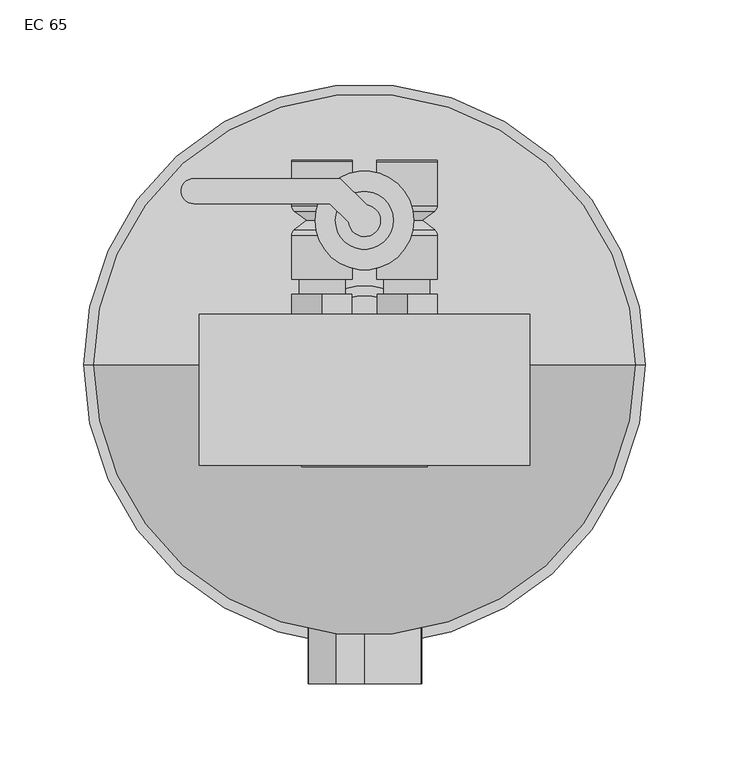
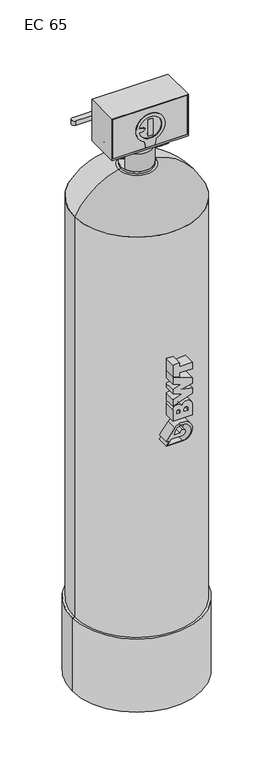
"""IFC4 building model written with IfcOpenShell, lengths in millimetres: flow terminal geometry, BWT_EC : EC 65."""

from ifc_helpers import new_model, si_unit, point, frame, frame_2d, origin, place, context, project, spatial, polyline, circle_curve, ellipse_curve, trimmed, segment, composite_curve, outline, extrude, faceted_brep, source, transform, mapped, element, save
from ifc_brep_helpers import plane_surface, cylinder_surface, revolved_surface, advanced_brep


def ec_65_0eb26893(model_context):
    return source(origin(), model_context, "Body", "SolidModel", [
        advanced_brep(
        [(-25.4198693, 51.0, 1418.3500273), (-43.4198693, 51.0, 1418.3500273), (-7.4198693, 51.0, 1418.3500273), (-7.4198693, 94.749277, 1418.3500273), (-43.4198693, 94.749277, 1418.3500273), (-43.4198693, 121.0, 1418.3500273), (-7.4198693, 121.0, 1418.3500273), (-9.0198693, 91.549277, 1418.3500273), (-41.8198693, 91.549277, 1418.3500273), (-16.4189054, 86.0, 1418.3500273), (-34.4208333, 86.0, 1418.3500273), (-9.0198693, 80.450723, 1418.3500273), (-41.8198693, 80.450723, 1418.3500273), (-7.4198693, 77.250723, 1418.3500273), (-43.4198693, 77.250723, 1418.3500273), (-43.4198693, 122.0, 1418.3500273), (-7.4198693, 122.0, 1418.3500273)],
        [
            (0, 1),
            (1, 2, circle_curve(frame((-25.4198693, 51.0, 1418.3500273), z_axis=(0.0, -1.0, 0.0), x_axis=(-1.0, 0.0, 0.0)), 18.0)),
            (2, 0),
            (2, 1, circle_curve(frame((-25.4198693, 51.0, 1418.3500273), z_axis=(0.0, -1.0, 0.0), x_axis=(-1.0, 0.0, 0.0)), 18.0)),
            (3, 4, circle_curve(frame((-25.4198693, 94.749277, 1418.3500273), z_axis=(0.0, 1.0, 0.0), x_axis=(-1.0, 0.0, 0.0)), 18.0)),
            (4, 5),
            (5, 6, circle_curve(frame((-25.4198693, 121.0, 1418.3500273), z_axis=(0.0, -1.0, 0.0), x_axis=(-1.0, 0.0, 0.0)), 18.0)),
            (6, 3),
            (4, 3, circle_curve(frame((-25.4198693, 94.749277, 1418.3500273), z_axis=(0.0, 1.0, 0.0), x_axis=(-1.0, 0.0, 0.0)), 18.0)),
            (6, 5, circle_curve(frame((-25.4198693, 121.0, 1418.3500273), z_axis=(0.0, -1.0, 0.0), x_axis=(-1.0, 0.0, 0.0)), 18.0)),
            (3, 7, circle_curve(frame((-11.4198693, 94.749277, 1418.3500273), z_axis=(0.0, 0.0, -1.0), x_axis=(-1.0, 0.0, 0.0)), 4.0)),
            (7, 8, circle_curve(frame((-25.4198693, 91.549277, 1418.3500273), z_axis=(0.0, 1.0, 0.0), x_axis=(-1.0, 0.0, 0.0)), 16.4)),
            (8, 4, circle_curve(frame((-39.4198693, 94.749277, 1418.3500273), z_axis=(0.0, 0.0, -1.0), x_axis=(1.0, 0.0, 0.0)), 4.0)),
            (8, 7, circle_curve(frame((-25.4198693, 91.549277, 1418.3500273), z_axis=(0.0, 1.0, 0.0), x_axis=(-1.0, 0.0, 0.0)), 16.4)),
            (7, 9),
            (9, 10, circle_curve(frame((-25.4198693, 86.0, 1418.3500273), z_axis=(0.0, 1.0, 0.0), x_axis=(-1.0, 0.0, 0.0)), 9.000964)),
            (10, 8),
            (10, 9, circle_curve(frame((-25.4198693, 86.0, 1418.3500273), z_axis=(0.0, 1.0, 0.0), x_axis=(-1.0, 0.0, 0.0)), 9.000964)),
            (9, 11),
            (11, 12, circle_curve(frame((-25.4198693, 80.450723, 1418.3500273), z_axis=(0.0, 1.0, 0.0), x_axis=(-1.0, 0.0, 0.0)), 16.4)),
            (12, 10),
            (12, 11, circle_curve(frame((-25.4198693, 80.450723, 1418.3500273), z_axis=(0.0, 1.0, 0.0), x_axis=(-1.0, 0.0, 0.0)), 16.4)),
            (11, 13, circle_curve(frame((-11.4198693, 77.250723, 1418.3500273), z_axis=(0.0, 0.0, -1.0), x_axis=(-1.0, 0.0, 0.0)), 4.0)),
            (13, 14, circle_curve(frame((-25.4198693, 77.250723, 1418.3500273), z_axis=(0.0, 1.0, 0.0), x_axis=(-1.0, 0.0, 0.0)), 18.0)),
            (14, 12, circle_curve(frame((-39.4198693, 77.250723, 1418.3500273), z_axis=(0.0, 0.0, -1.0), x_axis=(1.0, 0.0, 0.0)), 4.0)),
            (14, 13, circle_curve(frame((-25.4198693, 77.250723, 1418.3500273), z_axis=(0.0, 1.0, 0.0), x_axis=(-1.0, 0.0, 0.0)), 18.0)),
            (1, 14),
            (13, 2),
            (15, 16, circle_curve(frame((-25.4198693, 122.0, 1418.3500273), z_axis=(0.0, 1.0, 0.0), x_axis=(-1.0, 0.0, 0.0)), 18.0)),
            (16, 15, circle_curve(frame((-25.4198693, 122.0, 1418.3500273), z_axis=(0.0, 1.0, 0.0), x_axis=(-1.0, 0.0, 0.0)), 18.0)),
            (15, 5),
            (6, 16),
        ],
        [
            plane_surface(frame((-25.4198693, 51.0, 1418.3500273), z_axis=(0.0, -1.0, 0.0), x_axis=(-1.0, 0.0, 0.0))),
            cylinder_surface(frame((-25.4198693, 152.9623853, 1418.3500273), z_axis=(0.0, -1.0, 0.0), x_axis=(-1.0, 0.0, 0.0)), 18.0),
            revolved_surface(trimmed(ellipse_curve(frame((-39.4198693, 94.749277, 1418.3500273), z_axis=(0.0, 0.0, 1.0), x_axis=(1.0, 0.0, 0.0)), 4.0, 4.0), [point((-43.4198693, 94.749277, 1418.3500273))], [point((-41.8198693, 91.549277, 1418.3500273))], True, "CARTESIAN"), (-25.4198693, 152.9623853, 1418.3500273), (0.0, -1.0, 0.0)),
            revolved_surface(polyline([(-41.8198693, 91.549277, 1418.3500273), (-34.4208333, 86.0, 1418.3500273)]), (-25.4198693, 152.9623853, 1418.3500273), (0.0, -1.0, 0.0)),
            revolved_surface(polyline([(-34.4208333, 86.0, 1418.3500273), (-41.8198693, 80.450723, 1418.3500273)]), (-25.4198693, 152.9623853, 1418.3500273), (0.0, -1.0, 0.0)),
            revolved_surface(trimmed(ellipse_curve(frame((-39.4198693, 77.250723, 1418.3500273), z_axis=(0.0, 0.0, 1.0), x_axis=(1.0, 0.0, 0.0)), 4.0, 4.0), [point((-41.8198693, 80.450723, 1418.3500273))], [point((-43.4198693, 77.250723, 1418.3500273))], True, "CARTESIAN"), (-25.4198693, 152.9623853, 1418.3500273), (0.0, -1.0, 0.0)),
            plane_surface(frame((-43.4198693, 122.0, 1418.3500273), z_axis=(0.0, 1.0, 0.0), x_axis=(0.0, 0.0, 1.0))),
            cylinder_surface(frame((-25.4198693, 121.0, 1418.3500273), z_axis=(0.0, 1.0, 0.0), x_axis=(-1.0, 0.0, 0.0)), 18.0),
        ],
        [
            (0, [[1, 2, 3]]),
            (0, [[-1, -3, 4]]),
            (1, [[5, 6, 7, 8]]),
            (1, [[-6, 9, -8, 10]]),
            (2, [[-5, 11, 12, 13]]),
            (2, [[-9, -13, 14, -11]]),
            (3, [[-12, 15, 16, 17]]),
            (3, [[-14, -17, 18, -15]]),
            (4, [[-16, 19, 20, 21]]),
            (4, [[-18, -21, 22, -19]]),
            (5, [[-20, 23, 24, 25]]),
            (5, [[-22, -25, 26, -23]]),
            (1, [[-2, 27, -24, 28]]),
            (1, [[-4, -28, -26, -27]]),
            (6, [[29, 30]]),
            (7, [[-29, 31, -10, 32]]),
            (7, [[-30, -32, -7, -31]]),
        ],
    ),
        advanced_brep(
        [(7.3803067, 122.0, 1418.3500273), (43.3803067, 122.0, 1418.3500273), (7.3803067, 121.0, 1418.3500273), (43.3803067, 121.0, 1418.3500273), (25.3803067, 51.0, 1418.3500273), (7.3803067, 51.0, 1418.3500273), (43.3803067, 51.0, 1418.3500273), (43.3803067, 94.749277, 1418.3500273), (7.3803067, 94.749277, 1418.3500273), (41.7803067, 91.549277, 1418.3500273), (8.9803067, 91.549277, 1418.3500273), (34.3812707, 86.0, 1418.3500273), (16.3793427, 86.0, 1418.3500273), (41.7803067, 80.450723, 1418.3500273), (8.9803067, 80.450723, 1418.3500273), (43.3803067, 77.250723, 1418.3500273), (7.3803067, 77.250723, 1418.3500273)],
        [
            (0, 1, circle_curve(frame((25.3803067, 122.0, 1418.3500273), z_axis=(0.0, 1.0, 0.0), x_axis=(-1.0, 0.0, 0.0)), 18.0)),
            (1, 0, circle_curve(frame((25.3803067, 122.0, 1418.3500273), z_axis=(0.0, 1.0, 0.0), x_axis=(-1.0, 0.0, 0.0)), 18.0)),
            (0, 2),
            (2, 3, circle_curve(frame((25.3803067, 121.0, 1418.3500273), z_axis=(0.0, 1.0, 0.0), x_axis=(-1.0, 0.0, 0.0)), 18.0)),
            (3, 1),
            (3, 2, circle_curve(frame((25.3803067, 121.0, 1418.3500273), z_axis=(0.0, 1.0, 0.0), x_axis=(-1.0, 0.0, 0.0)), 18.0)),
            (4, 5),
            (5, 6, circle_curve(frame((25.3803067, 51.0, 1418.3500273), z_axis=(0.0, -1.0, 0.0), x_axis=(-1.0, 0.0, 0.0)), 18.0)),
            (6, 4),
            (6, 5, circle_curve(frame((25.3803067, 51.0, 1418.3500273), z_axis=(0.0, -1.0, 0.0), x_axis=(-1.0, 0.0, 0.0)), 18.0)),
            (7, 8, circle_curve(frame((25.3803067, 94.749277, 1418.3500273), z_axis=(0.0, 1.0, 0.0), x_axis=(-1.0, 0.0, 0.0)), 18.0)),
            (8, 2),
            (3, 7),
            (8, 7, circle_curve(frame((25.3803067, 94.749277, 1418.3500273), z_axis=(0.0, 1.0, 0.0), x_axis=(-1.0, 0.0, 0.0)), 18.0)),
            (7, 9, circle_curve(frame((39.3803067, 94.749277, 1418.3500273), z_axis=(0.0, 0.0, -1.0), x_axis=(-1.0, 0.0, 0.0)), 4.0)),
            (9, 10, circle_curve(frame((25.3803067, 91.549277, 1418.3500273), z_axis=(0.0, 1.0, 0.0), x_axis=(-1.0, 0.0, 0.0)), 16.4)),
            (10, 8, circle_curve(frame((11.3803067, 94.749277, 1418.3500273), z_axis=(0.0, 0.0, -1.0), x_axis=(1.0, 0.0, 0.0)), 4.0)),
            (10, 9, circle_curve(frame((25.3803067, 91.549277, 1418.3500273), z_axis=(0.0, 1.0, 0.0), x_axis=(-1.0, 0.0, 0.0)), 16.4)),
            (9, 11),
            (11, 12, circle_curve(frame((25.3803067, 86.0, 1418.3500273), z_axis=(0.0, 1.0, 0.0), x_axis=(-1.0, 0.0, 0.0)), 9.000964)),
            (12, 10),
            (12, 11, circle_curve(frame((25.3803067, 86.0, 1418.3500273), z_axis=(0.0, 1.0, 0.0), x_axis=(-1.0, 0.0, 0.0)), 9.000964)),
            (11, 13),
            (13, 14, circle_curve(frame((25.3803067, 80.450723, 1418.3500273), z_axis=(0.0, 1.0, 0.0), x_axis=(-1.0, 0.0, 0.0)), 16.4)),
            (14, 12),
            (14, 13, circle_curve(frame((25.3803067, 80.450723, 1418.3500273), z_axis=(0.0, 1.0, 0.0), x_axis=(-1.0, 0.0, 0.0)), 16.4)),
            (13, 15, circle_curve(frame((39.3803067, 77.250723, 1418.3500273), z_axis=(0.0, 0.0, -1.0), x_axis=(-1.0, 0.0, 0.0)), 4.0)),
            (15, 16, circle_curve(frame((25.3803067, 77.250723, 1418.3500273), z_axis=(0.0, 1.0, 0.0), x_axis=(-1.0, 0.0, 0.0)), 18.0)),
            (16, 14, circle_curve(frame((11.3803067, 77.250723, 1418.3500273), z_axis=(0.0, 0.0, -1.0), x_axis=(1.0, 0.0, 0.0)), 4.0)),
            (16, 15, circle_curve(frame((25.3803067, 77.250723, 1418.3500273), z_axis=(0.0, 1.0, 0.0), x_axis=(-1.0, 0.0, 0.0)), 18.0)),
            (5, 16),
            (15, 6),
        ],
        [
            plane_surface(frame((-43.4198693, 122.0, 1418.3500273), z_axis=(0.0, 1.0, 0.0), x_axis=(0.0, 0.0, 1.0))),
            cylinder_surface(frame((25.3803067, 121.0, 1418.3500273), z_axis=(0.0, 1.0, 0.0), x_axis=(-1.0, 0.0, 0.0)), 18.0),
            plane_surface(frame((25.3803067, 51.0, 1418.3500273), z_axis=(0.0, -1.0, 0.0), x_axis=(-1.0, 0.0, 0.0))),
            cylinder_surface(frame((25.3803067, 152.9623853, 1418.3500273), z_axis=(0.0, -1.0, 0.0), x_axis=(-1.0, 0.0, 0.0)), 18.0),
            revolved_surface(trimmed(ellipse_curve(frame((11.3803067, 94.749277, 1418.3500273), z_axis=(0.0, 0.0, 1.0), x_axis=(1.0, 0.0, 0.0)), 4.0, 4.0), [point((7.3803067, 94.749277, 1418.3500273))], [point((8.9803067, 91.549277, 1418.3500273))], True, "CARTESIAN"), (25.3803067, 152.9623853, 1418.3500273), (0.0, -1.0, 0.0)),
            revolved_surface(polyline([(8.9803067, 91.549277, 1418.3500273), (16.3793427, 86.0, 1418.3500273)]), (25.3803067, 152.9623853, 1418.3500273), (0.0, -1.0, 0.0)),
            revolved_surface(polyline([(16.3793427, 86.0, 1418.3500273), (8.9803067, 80.450723, 1418.3500273)]), (25.3803067, 152.9623853, 1418.3500273), (0.0, -1.0, 0.0)),
            revolved_surface(trimmed(ellipse_curve(frame((11.3803067, 77.250723, 1418.3500273), z_axis=(0.0, 0.0, 1.0), x_axis=(1.0, 0.0, 0.0)), 4.0, 4.0), [point((8.9803067, 80.450723, 1418.3500273))], [point((7.3803067, 77.250723, 1418.3500273))], True, "CARTESIAN"), (25.3803067, 152.9623853, 1418.3500273), (0.0, -1.0, 0.0)),
        ],
        [
            (0, [[1, 2]]),
            (1, [[-1, 3, 4, 5]]),
            (1, [[-2, -5, 6, -3]]),
            (2, [[7, 8, 9]]),
            (2, [[-7, -9, 10]]),
            (3, [[11, 12, -6, 13]]),
            (3, [[-12, 14, -13, -4]]),
            (4, [[-11, 15, 16, 17]]),
            (4, [[-14, -17, 18, -15]]),
            (5, [[-16, 19, 20, 21]]),
            (5, [[-18, -21, 22, -19]]),
            (6, [[-20, 23, 24, 25]]),
            (6, [[-22, -25, 26, -23]]),
            (7, [[-24, 27, 28, 29]]),
            (7, [[-26, -29, 30, -27]]),
            (3, [[-8, 31, -28, 32]]),
            (3, [[-10, -32, -30, -31]]),
        ],
    ),
        extrude(outline(polyline([(96.2035118, -58.8371146), (-95.5486478, -58.8371146), (-95.5486478, -54.8371146), (96.2035118, -54.8371146), (96.2035118, -58.8371146)])), frame((0.0, 0.0, 1465.7939903), z_axis=(0.0, 0.0, 1.0), x_axis=(1.0, 0.0, 0.0)), (0.0, 0.0, 1.0), 106.7326791),
        extrude(outline(polyline([(12.4852191, 1457.6531008), (15.7188089, 1453.1206461), (13.4103829, 1448.0540479), (7.868367, 1447.5199043), (4.6347772, 1452.052359), (6.9432033, 1457.1189573), (12.4852191, 1457.6531008)])), frame((61.9425108, 0.0, 0.0), z_axis=(1.0, 0.0, 0.0), x_axis=(0.0, 1.0, 0.0)), (0.0, 0.0, 1.0), 8.5574892),
        advanced_brep(
        [(33.3436037, 10.077573, 1452.5846012), (33.3436037, 10.077573, 1461.2365171), (33.3436037, 10.077573, 1443.9326853), (61.9425108, 10.077573, 1443.9326853), (61.9425108, 10.077573, 1461.2365171), (61.9425108, 10.077573, 1452.5846012)],
        [
            (0, 1),
            (1, 2, circle_curve(frame((33.3436037, 10.077573, 1452.5846012), z_axis=(-1.0, 0.0, 0.0), x_axis=(0.0, 0.0, 1.0)), 8.6519159)),
            (2, 0),
            (2, 1, circle_curve(frame((33.3436037, 10.077573, 1452.5846012), z_axis=(-1.0, 0.0, 0.0), x_axis=(0.0, 0.0, 1.0)), 8.6519159)),
            (3, 4, circle_curve(frame((61.9425108, 10.077573, 1452.5846012), z_axis=(1.0, 0.0, 0.0), x_axis=(0.0, 0.0, 1.0)), 8.6519159)),
            (4, 5),
            (5, 3),
            (4, 3, circle_curve(frame((61.9425108, 10.077573, 1452.5846012), z_axis=(1.0, 0.0, 0.0), x_axis=(0.0, 0.0, 1.0)), 8.6519159)),
            (1, 4),
            (3, 2),
        ],
        [
            plane_surface(frame((33.3436037, 10.077573, 1452.5846012), z_axis=(-1.0, 0.0, 0.0), x_axis=(0.0, 0.0, 1.0))),
            plane_surface(frame((61.9425108, 10.077573, 1452.5846012), z_axis=(1.0, 0.0, 0.0), x_axis=(0.0, 0.0, 1.0))),
            cylinder_surface(frame((49.1268561, 10.077573, 1452.5846012), z_axis=(-1.0, 0.0, 0.0), x_axis=(0.0, 0.0, 1.0)), 8.6519159),
        ],
        [
            (0, [[1, 2, 3]]),
            (0, [[-3, 4, -1]]),
            (1, [[5, 6, 7]]),
            (1, [[8, -7, -6]]),
            (2, [[-2, 9, -5, 10]]),
            (2, [[-4, -10, -8, -9]]),
        ],
    ),
        advanced_brep(
        [(16.2211812, 10.077573, 1452.5846012), (16.2211812, 10.077573, 1457.5240423), (16.2211812, 10.077573, 1447.6451601), (33.3436037, 10.077573, 1447.6451601), (33.3436037, 10.077573, 1457.5240423), (33.3436037, 10.077573, 1452.5846012)],
        [
            (0, 1),
            (1, 2, circle_curve(frame((16.2211812, 10.077573, 1452.5846012), z_axis=(-1.0, 0.0, 0.0), x_axis=(0.0, 0.0, 1.0)), 4.9394411)),
            (2, 0),
            (2, 1, circle_curve(frame((16.2211812, 10.077573, 1452.5846012), z_axis=(-1.0, 0.0, 0.0), x_axis=(0.0, 0.0, 1.0)), 4.9394411)),
            (3, 4, circle_curve(frame((33.3436037, 10.077573, 1452.5846012), z_axis=(1.0, 0.0, 0.0), x_axis=(0.0, 0.0, 1.0)), 4.9394411)),
            (4, 5),
            (5, 3),
            (4, 3, circle_curve(frame((33.3436037, 10.077573, 1452.5846012), z_axis=(1.0, 0.0, 0.0), x_axis=(0.0, 0.0, 1.0)), 4.9394411)),
            (1, 4),
            (3, 2),
        ],
        [
            plane_surface(frame((16.2211812, 10.077573, 1452.5846012), z_axis=(-1.0, 0.0, 0.0), x_axis=(0.0, 0.0, 1.0))),
            plane_surface(frame((33.3436037, 10.077573, 1452.5846012), z_axis=(1.0, 0.0, 0.0), x_axis=(0.0, 0.0, 1.0))),
            cylinder_surface(frame((15.7194931, 10.077573, 1452.5846012), z_axis=(-1.0, 0.0, 0.0), x_axis=(0.0, 0.0, 1.0)), 4.9394411),
        ],
        [
            (0, [[1, 2, 3]]),
            (0, [[-3, 4, -1]]),
            (1, [[5, 6, 7]]),
            (1, [[8, -7, -6]]),
            (2, [[-2, 9, -5, 10]]),
            (2, [[-4, -10, -8, -9]]),
        ],
    ),
        extrude(outline(composite_curve([segment(polyline([(1485.0456784, -15.0), (1467.4054042, -11.7297557), (1467.4054042, 11.7297557), (1485.0456784, 15.0)]), True, "CONTINUOUS"), segment(trimmed(circle_curve(frame_2d((1519.4149961, 0.0)), 37.5), [point((1485.0456784, 15.0))], [point((1485.0456784, -15.0))], False, "CARTESIAN"), True, "CONTINUOUS")], self_intersect=False), holes=[composite_curve([segment(trimmed(circle_curve(frame_2d((1519.4149961, 0.0)), 29.0), [point((1545.9939352, 11.6))], [point((1492.8360571, 11.6))], True, "CARTESIAN"), True, "CONTINUOUS"), segment(trimmed(circle_curve(frame_2d((1519.4149961, 0.0)), 29.0), [point((1492.8360571, 11.6))], [point((1492.8360571, -11.6))], True, "CARTESIAN"), True, "CONTINUOUS"), segment(trimmed(circle_curve(frame_2d((1519.4149961, 0.0)), 29.0), [point((1492.8360571, -11.6))], [point((1513.7488042, -28.4410666))], True, "CARTESIAN"), True, "CONTINUOUS"), segment(polyline([(1513.7488042, -28.4410666), (1515.4149961, -17.2034068)]), True, "CONTINUOUS"), segment(trimmed(circle_curve(frame_2d((1519.4149961, -17.2034068)), 4.0), [point((1515.4149961, -17.2034068))], [point((1523.4149961, -17.2034068))], False, "CARTESIAN"), True, "CONTINUOUS"), segment(polyline([(1523.4149961, -17.2034068), (1525.081188, -28.4410666)]), True, "CONTINUOUS"), segment(trimmed(circle_curve(frame_2d((1519.4149961, 0.0)), 29.0), [point((1525.081188, -28.4410666))], [point((1545.9939352, -11.6))], True, "CARTESIAN"), True, "CONTINUOUS"), segment(trimmed(circle_curve(frame_2d((1519.4149961, 0.0)), 29.0), [point((1545.9939352, -11.6))], [point((1545.9939352, 11.6))], True, "CARTESIAN"), True, "CONTINUOUS")], self_intersect=False)]), frame((0.0, -61.1092325, 0.0), z_axis=(0.0, 1.0, 0.0), x_axis=(0.0, 0.0, 1.0)), (0.0, 0.0, 1.0), 6.272118),
        extrude(outline(composite_curve([segment(trimmed(circle_curve(frame_2d((1519.4149961, 0.0)), 22.5), [point((1541.1002446, 6.0))], [point((1541.1002446, -6.0))], False, "CARTESIAN"), True, "CONTINUOUS"), segment(polyline([(1541.1002446, -6.0), (1497.7297477, -6.0)]), True, "CONTINUOUS"), segment(trimmed(circle_curve(frame_2d((1519.4149961, 0.0)), 22.5), [point((1497.7297477, -6.0))], [point((1497.7297477, 6.0))], False, "CARTESIAN"), True, "CONTINUOUS"), segment(polyline([(1497.7297477, 6.0), (1541.1002446, 6.0)]), True, "CONTINUOUS")], self_intersect=False)), frame((0.0, -61.1092325, 0.0), z_axis=(0.0, 1.0, 0.0), x_axis=(0.0, 0.0, 1.0)), (0.0, 0.0, 1.0), 6.272118),
        faceted_brep([(-98.4688118, -60.0, 1575.0612416), (98.4688118, -60.0, 1575.0612416), (98.4688118, 30.0, 1575.0612416), (-98.4688118, 30.0, 1575.0612416), (-98.4688118, -60.0, 1461.8105054), (-98.4688118, 30.0, 1461.8105054), (98.4688118, 30.0, 1461.8105054), (98.4688118, -60.0, 1461.8105054), (-95.5486478, -60.0, 1572.5266694), (96.2035118, -60.0, 1572.5266694), (96.2035118, -60.0, 1465.7939903), (-95.5486478, -60.0, 1465.7939903), (-95.5486478, -54.8371146, 1572.5266694), (-95.5486478, -54.8371146, 1465.7939903), (96.2035118, -54.8371146, 1465.7939903), (96.2035118, -54.8371146, 1572.5266694)], [[[0, 1, 2, 3]], [[4, 5, 6, 7]], [[1, 0, 4, 7], [8, 9, 10, 11]], [[2, 1, 7, 6]], [[3, 2, 6, 5]], [[0, 3, 5, 4]], [[12, 13, 14, 15]], [[12, 15, 9, 8]], [[15, 14, 10, 9]], [[14, 13, 11, 10]], [[13, 12, 8, 11]]]),
        extrude(outline(composite_curve([segment(polyline([(10.077573, 1427.5580398), (3.6925169, 1421.1729837), (-13.5373709, 1421.1729837), (-19.922427, 1427.5580398)]), True, "CONTINUOUS"), segment(trimmed(circle_curve(frame_2d((-19.922427, 1432.4974809)), 4.9394411), [point((-19.922427, 1427.5580398))], [point((-19.922427, 1437.436922))], False, "CARTESIAN"), True, "CONTINUOUS"), segment(polyline([(-19.922427, 1437.436922), (-13.5373709, 1443.8219781), (3.6925169, 1443.8219781), (10.077573, 1437.436922)]), True, "CONTINUOUS"), segment(trimmed(circle_curve(frame_2d((10.077573, 1432.4974809)), 4.9394411), [point((10.077573, 1437.436922))], [point((10.077573, 1427.5580398))], False, "CARTESIAN"), True, "CONTINUOUS")], self_intersect=False)), frame((49.3489527, 0.0, 0.0), z_axis=(1.0, 0.0, 0.0), x_axis=(0.0, 1.0, 0.0)), (0.0, 0.0, 1.0), 18.1723162),
        extrude(outline(composite_curve([segment(trimmed(circle_curve(frame_2d((1418.29, -25.2442723)), 13.75), [point((1418.29, -11.4942723))], [point((1418.29, -38.9942723))], False, "CARTESIAN"), True, "CONTINUOUS"), segment(trimmed(circle_curve(frame_2d((1418.29, -25.2442723)), 13.75), [point((1418.29, -38.9942723))], [point((1418.29, -11.4942723))], False, "CARTESIAN"), True, "CONTINUOUS")], self_intersect=False)), frame((0.0, 42.0, 0.0), z_axis=(0.0, 1.0, 0.0), x_axis=(0.0, 0.0, 1.0)), (0.0, 0.0, 1.0), 9.0),
        advanced_brep(
        [(16.2211812, 10.077573, 1432.4974809), (16.2211812, 10.077573, 1437.436922), (16.2211812, 10.077573, 1427.5580398), (49.3489527, 10.077573, 1427.5580398), (49.3489527, 10.077573, 1437.436922), (49.3489527, 10.077573, 1432.4974809)],
        [
            (0, 1),
            (1, 2, circle_curve(frame((16.2211812, 10.077573, 1432.4974809), z_axis=(-1.0, 0.0, 0.0), x_axis=(0.0, 0.0, 1.0)), 4.9394411)),
            (2, 0),
            (2, 1, circle_curve(frame((16.2211812, 10.077573, 1432.4974809), z_axis=(-1.0, 0.0, 0.0), x_axis=(0.0, 0.0, 1.0)), 4.9394411)),
            (3, 4, circle_curve(frame((49.3489527, 10.077573, 1432.4974809), z_axis=(1.0, 0.0, 0.0), x_axis=(0.0, 0.0, 1.0)), 4.9394411)),
            (4, 5),
            (5, 3),
            (4, 3, circle_curve(frame((49.3489527, 10.077573, 1432.4974809), z_axis=(1.0, 0.0, 0.0), x_axis=(0.0, 0.0, 1.0)), 4.9394411)),
            (1, 4),
            (3, 2),
        ],
        [
            plane_surface(frame((16.2211812, 10.077573, 1432.4974809), z_axis=(-1.0, 0.0, 0.0), x_axis=(0.0, 0.0, 1.0))),
            plane_surface(frame((49.3489527, 10.077573, 1432.4974809), z_axis=(1.0, 0.0, 0.0), x_axis=(0.0, 0.0, 1.0))),
            cylinder_surface(frame((15.7194931, 10.077573, 1432.4974809), z_axis=(-1.0, 0.0, 0.0), x_axis=(0.0, 0.0, 1.0)), 4.9394411),
        ],
        [
            (0, [[1, 2, 3]]),
            (0, [[-3, 4, -1]]),
            (1, [[5, 6, 7]]),
            (1, [[8, -7, -6]]),
            (2, [[-2, 9, -5, 10]]),
            (2, [[-4, -10, -8, -9]]),
        ],
    ),
        extrude(outline(composite_curve([segment(trimmed(circle_curve(frame_2d((1418.29, 25.2244777)), 13.75), [point((1418.29, 38.9744777))], [point((1418.29, 11.4744777))], False, "CARTESIAN"), True, "CONTINUOUS"), segment(trimmed(circle_curve(frame_2d((1418.29, 25.2244777)), 13.75), [point((1418.29, 11.4744777))], [point((1418.29, 38.9744777))], False, "CARTESIAN"), True, "CONTINUOUS")], self_intersect=False)), frame((0.0, 42.0, 0.0), z_axis=(0.0, 1.0, 0.0), x_axis=(0.0, 0.0, 1.0)), (0.0, 0.0, 1.0), 9.0),
        advanced_brep(
        [(16.2211812, -19.922427, 1432.4974809), (16.2211812, -19.922427, 1437.436922), (16.2211812, -19.922427, 1427.5580398), (49.3489527, -19.922427, 1427.5580398), (49.3489527, -19.922427, 1437.436922), (49.3489527, -19.922427, 1432.4974809)],
        [
            (0, 1),
            (1, 2, circle_curve(frame((16.2211812, -19.922427, 1432.4974809), z_axis=(-1.0, 0.0, 0.0), x_axis=(0.0, 0.0, 1.0)), 4.9394411)),
            (2, 0),
            (2, 1, circle_curve(frame((16.2211812, -19.922427, 1432.4974809), z_axis=(-1.0, 0.0, 0.0), x_axis=(0.0, 0.0, 1.0)), 4.9394411)),
            (3, 4, circle_curve(frame((49.3489527, -19.922427, 1432.4974809), z_axis=(1.0, 0.0, 0.0), x_axis=(0.0, 0.0, 1.0)), 4.9394411)),
            (4, 5),
            (5, 3),
            (4, 3, circle_curve(frame((49.3489527, -19.922427, 1432.4974809), z_axis=(1.0, 0.0, 0.0), x_axis=(0.0, 0.0, 1.0)), 4.9394411)),
            (1, 4),
            (3, 2),
        ],
        [
            plane_surface(frame((16.2211812, -19.922427, 1432.4974809), z_axis=(-1.0, 0.0, 0.0), x_axis=(0.0, 0.0, 1.0))),
            plane_surface(frame((49.3489527, -19.922427, 1432.4974809), z_axis=(1.0, 0.0, 0.0), x_axis=(0.0, 0.0, 1.0))),
            cylinder_surface(frame((15.7194931, -19.922427, 1432.4974809), z_axis=(-1.0, 0.0, 0.0), x_axis=(0.0, 0.0, 1.0)), 4.9394411),
        ],
        [
            (0, [[1, 2, 3]]),
            (0, [[-3, 4, -1]]),
            (1, [[5, 6, 7]]),
            (1, [[8, -7, -6]]),
            (2, [[-2, 9, -5, 10]]),
            (2, [[-4, -10, -8, -9]]),
        ],
    ),
        extrude(outline(polyline([(-9.236693, 1423.6097607), (-5.3893163, 1432.0540912), (3.8473767, 1432.9443304), (9.236693, 1425.3902393), (5.3893163, 1416.9459088), (-3.8473767, 1416.0556696), (-9.236693, 1423.6097607)])), frame((-49.5, 0.0, 0.0), z_axis=(1.0, 0.0, 0.0), x_axis=(0.0, 1.0, 0.0)), (0.0, 0.0, 1.0), 4.5818966),
        advanced_brep(
        [(-44.9181034, 0.0, 1424.5), (-44.9181034, 0.0, 1435.25), (-44.9181034, 0.0, 1413.75), (-23.5189903, 0.0, 1413.75), (-23.5189903, 0.0, 1435.25), (-23.5189903, 0.0, 1424.5)],
        [
            (0, 1),
            (1, 2, circle_curve(frame((-44.9181034, 0.0, 1424.5), z_axis=(-1.0, 0.0, 0.0), x_axis=(0.0, 0.0, 1.0)), 10.75)),
            (2, 0),
            (2, 1, circle_curve(frame((-44.9181034, 0.0, 1424.5), z_axis=(-1.0, 0.0, 0.0), x_axis=(0.0, 0.0, 1.0)), 10.75)),
            (3, 4, circle_curve(frame((-23.5189903, 0.0, 1424.5), z_axis=(1.0, 0.0, 0.0), x_axis=(0.0, 0.0, 1.0)), 10.75)),
            (4, 5),
            (5, 3),
            (4, 3, circle_curve(frame((-23.5189903, 0.0, 1424.5), z_axis=(1.0, 0.0, 0.0), x_axis=(0.0, 0.0, 1.0)), 10.75)),
            (1, 4),
            (3, 2),
        ],
        [
            plane_surface(frame((-44.9181034, 0.0, 1424.5), z_axis=(-1.0, 0.0, 0.0), x_axis=(0.0, 0.0, 1.0))),
            plane_surface(frame((-23.5189903, 0.0, 1424.5), z_axis=(1.0, 0.0, 0.0), x_axis=(0.0, 0.0, 1.0))),
            cylinder_surface(frame((-54.704096, 0.0, 1424.5), z_axis=(-1.0, 0.0, 0.0), x_axis=(0.0, 0.0, 1.0)), 10.75),
        ],
        [
            (0, [[1, 2, 3]]),
            (0, [[-3, 4, -1]]),
            (1, [[5, 6, 7]]),
            (1, [[8, -7, -6]]),
            (2, [[-2, 9, -5, 10]]),
            (2, [[-4, -10, -8, -9]]),
        ],
    ),
        advanced_brep(
        [(25.4, 0.0, 1428.1171182), (25.4, 0.0, 1408.4628818), (25.4, 0.0, 1418.29), (25.4, 4.1055728, 1433.0364678), (25.4, 4.1055728, 1403.5435322), (25.4, 22.0, 1436.29), (25.4, 22.0, 1400.29), (25.4, 42.0, 1436.29), (25.4, 42.0, 1400.29), (25.4, 42.0, 1418.29)],
        [
            (0, 1, circle_curve(frame((25.4, 0.0, 1418.29), z_axis=(0.0, -1.0, 0.0), x_axis=(0.0, 0.0, -1.0)), 9.8271182)),
            (1, 2),
            (2, 0),
            (1, 0, circle_curve(frame((25.4, 0.0, 1418.29), z_axis=(0.0, -1.0, 0.0), x_axis=(0.0, 0.0, -1.0)), 9.8271182)),
            (3, 4, circle_curve(frame((25.4, 4.1055728, 1418.29), z_axis=(0.0, -1.0, 0.0), x_axis=(0.0, 0.0, -1.0)), 14.7464678)),
            (4, 1, circle_curve(frame((25.4, 5.0, 1408.4628818), z_axis=(-1.0, 0.0, 0.0), x_axis=(0.0, -1.0, 0.0)), 5.0)),
            (0, 3, circle_curve(frame((25.4, 5.0, 1428.1171182), z_axis=(-1.0, 0.0, 0.0), x_axis=(0.0, -1.0, 0.0)), 5.0)),
            (4, 3, circle_curve(frame((25.4, 4.1055728, 1418.29), z_axis=(0.0, -1.0, 0.0), x_axis=(0.0, 0.0, -1.0)), 14.7464678)),
            (5, 6, circle_curve(frame((25.4, 22.0, 1418.29), z_axis=(0.0, -1.0, 0.0), x_axis=(0.0, 0.0, -1.0)), 18.0)),
            (6, 4),
            (3, 5),
            (6, 5, circle_curve(frame((25.4, 22.0, 1418.29), z_axis=(0.0, -1.0, 0.0), x_axis=(0.0, 0.0, -1.0)), 18.0)),
            (7, 8, circle_curve(frame((25.4, 42.0, 1418.29), z_axis=(0.0, -1.0, 0.0), x_axis=(0.0, 0.0, -1.0)), 18.0)),
            (8, 6),
            (5, 7),
            (8, 7, circle_curve(frame((25.4, 42.0, 1418.29), z_axis=(0.0, -1.0, 0.0), x_axis=(0.0, 0.0, -1.0)), 18.0)),
            (9, 8),
            (7, 9),
        ],
        [
            plane_surface(frame((25.4, 0.0, 1418.29), z_axis=(0.0, -1.0, 0.0), x_axis=(0.0, 0.0, -1.0))),
            revolved_surface(trimmed(ellipse_curve(frame((25.4, 5.0, 1408.4628818), z_axis=(1.0, 0.0, 0.0), x_axis=(0.0, -1.0, 0.0)), 5.0, 5.0), [point((25.4, 0.0, 1408.4628818))], [point((25.4, 4.1055728, 1403.5435322))], True, "CARTESIAN"), (25.4, 0.0, 1418.29), (0.0, 1.0, 0.0)),
            revolved_surface(polyline([(25.4, 4.1055728, 1403.5435322), (25.4, 22.0, 1400.29)]), (25.4, 0.0, 1418.29), (0.0, 1.0, 0.0)),
            cylinder_surface(frame((25.4, 0.0, 1418.29), z_axis=(0.0, 1.0, 0.0), x_axis=(0.0, 0.0, -1.0)), 18.0),
            plane_surface(frame((25.4, 42.0, 1418.29), z_axis=(0.0, 1.0, 0.0), x_axis=(0.0, 0.0, -1.0))),
        ],
        [
            (0, [[1, 2, 3]]),
            (0, [[4, -3, -2]]),
            (1, [[5, 6, -1, 7]]),
            (1, [[8, -7, -4, -6]]),
            (2, [[9, 10, -5, 11]]),
            (2, [[12, -11, -8, -10]]),
            (3, [[13, 14, -9, 15]]),
            (3, [[16, -15, -12, -14]]),
            (4, [[17, -13, 18]]),
            (4, [[-18, -16, -17]]),
        ],
    ),
        advanced_brep(
        [(-25.4798264, 0.0, 1428.1171182), (-25.4798264, 0.0, 1408.4628818), (-25.4798264, 0.0, 1418.29), (-25.4798264, 4.1055728, 1433.0364678), (-25.4798264, 4.1055728, 1403.5435322), (-25.4798264, 22.0, 1436.29), (-25.4798264, 22.0, 1400.29), (-25.4798264, 42.0, 1436.29), (-25.4798264, 42.0, 1400.29), (-25.4798264, 42.0, 1418.29)],
        [
            (0, 1, circle_curve(frame((-25.4798264, 0.0, 1418.29), z_axis=(0.0, -1.0, 0.0), x_axis=(0.0, 0.0, -1.0)), 9.8271182)),
            (1, 2),
            (2, 0),
            (1, 0, circle_curve(frame((-25.4798264, 0.0, 1418.29), z_axis=(0.0, -1.0, 0.0), x_axis=(0.0, 0.0, -1.0)), 9.8271182)),
            (3, 4, circle_curve(frame((-25.4798264, 4.1055728, 1418.29), z_axis=(0.0, -1.0, 0.0), x_axis=(0.0, 0.0, -1.0)), 14.7464678)),
            (4, 1, circle_curve(frame((-25.4798264, 5.0, 1408.4628818), z_axis=(-1.0, 0.0, 0.0), x_axis=(0.0, -1.0, 0.0)), 5.0)),
            (0, 3, circle_curve(frame((-25.4798264, 5.0, 1428.1171182), z_axis=(-1.0, 0.0, 0.0), x_axis=(0.0, -1.0, 0.0)), 5.0)),
            (4, 3, circle_curve(frame((-25.4798264, 4.1055728, 1418.29), z_axis=(0.0, -1.0, 0.0), x_axis=(0.0, 0.0, -1.0)), 14.7464678)),
            (5, 6, circle_curve(frame((-25.4798264, 22.0, 1418.29), z_axis=(0.0, -1.0, 0.0), x_axis=(0.0, 0.0, -1.0)), 18.0)),
            (6, 4),
            (3, 5),
            (6, 5, circle_curve(frame((-25.4798264, 22.0, 1418.29), z_axis=(0.0, -1.0, 0.0), x_axis=(0.0, 0.0, -1.0)), 18.0)),
            (7, 8, circle_curve(frame((-25.4798264, 42.0, 1418.29), z_axis=(0.0, -1.0, 0.0), x_axis=(0.0, 0.0, -1.0)), 18.0)),
            (8, 6),
            (5, 7),
            (8, 7, circle_curve(frame((-25.4798264, 42.0, 1418.29), z_axis=(0.0, -1.0, 0.0), x_axis=(0.0, 0.0, -1.0)), 18.0)),
            (9, 8),
            (7, 9),
        ],
        [
            plane_surface(frame((-25.4798264, 0.0, 1418.29), z_axis=(0.0, -1.0, 0.0), x_axis=(0.0, 0.0, -1.0))),
            revolved_surface(trimmed(ellipse_curve(frame((-25.4798264, 5.0, 1408.4628818), z_axis=(1.0, 0.0, 0.0), x_axis=(0.0, -1.0, 0.0)), 5.0, 5.0), [point((-25.4798264, 0.0, 1408.4628818))], [point((-25.4798264, 4.1055728, 1403.5435322))], True, "CARTESIAN"), (-25.4798264, 0.0, 1418.29), (0.0, 1.0, 0.0)),
            revolved_surface(polyline([(-25.4798264, 4.1055728, 1403.5435322), (-25.4798264, 22.0, 1400.29)]), (-25.4798264, 0.0, 1418.29), (0.0, 1.0, 0.0)),
            cylinder_surface(frame((-25.4798264, 0.0, 1418.29), z_axis=(0.0, 1.0, 0.0), x_axis=(0.0, 0.0, -1.0)), 18.0),
            plane_surface(frame((-25.4798264, 42.0, 1418.29), z_axis=(0.0, 1.0, 0.0), x_axis=(0.0, 0.0, -1.0))),
        ],
        [
            (0, [[1, 2, 3]]),
            (0, [[4, -3, -2]]),
            (1, [[5, 6, -1, 7]]),
            (1, [[8, -7, -4, -6]]),
            (2, [[9, 10, -5, 11]]),
            (2, [[12, -11, -8, -10]]),
            (3, [[13, 14, -9, 15]]),
            (3, [[16, -15, -12, -14]]),
            (4, [[17, -13, 18]]),
            (4, [[-18, -16, -17]]),
        ],
    ),
        advanced_brep(
        [(-101.8933983, 96.0, 1477.29), (-20.6066017, 96.0, 1477.29), (-9.4491479, 84.8425462, 1477.29), (9.4986096, 85.8374721, 1477.29), (1.3684027, 95.238199, 1477.29), (-14.3933983, 111.0, 1477.29), (-101.8933983, 111.0, 1477.29), (-101.8933983, 96.0, 1465.79), (-101.8933983, 111.0, 1465.79), (-14.3933983, 111.0, 1465.79), (1.3684027, 95.238199, 1465.79), (-9.5013904, 85.8374721, 1465.79), (-9.4491479, 84.8425462, 1465.79), (-20.6066017, 96.0, 1465.79), (-9.5013904, 85.8374721, 1453.2898717), (9.4986096, 85.8374721, 1453.2898717)],
        [
            (0, 1),
            (1, 2),
            (2, 3, circle_curve(frame((-0.0013904, 85.8374721, 1477.29), z_axis=(0.0, 0.0, 1.0), x_axis=(1.0, 0.0, 0.0)), 9.5)),
            (3, 4, circle_curve(frame((-0.0013904, 85.8374721, 1477.29), z_axis=(0.0, 0.0, 1.0), x_axis=(1.0, 0.0, 0.0)), 9.5)),
            (4, 5),
            (5, 6),
            (6, 0, circle_curve(frame((-101.8933983, 103.5, 1477.29), z_axis=(0.0, 0.0, 1.0), x_axis=(1.0, 0.0, 0.0)), 7.5)),
            (7, 8, circle_curve(frame((-101.8933983, 103.5, 1465.79), z_axis=(0.0, 0.0, -1.0), x_axis=(1.0, 0.0, 0.0)), 7.5)),
            (8, 9),
            (9, 10),
            (10, 11, circle_curve(frame((-0.0013904, 85.8374721, 1465.79), z_axis=(0.0, 0.0, 1.0), x_axis=(1.0, 0.0, 0.0)), 9.5)),
            (11, 12, circle_curve(frame((-0.0013904, 85.8374721, 1465.79), z_axis=(0.0, 0.0, 1.0), x_axis=(1.0, 0.0, 0.0)), 9.5)),
            (12, 13),
            (13, 7),
            (0, 7),
            (13, 1),
            (12, 2),
            (4, 10),
            (9, 5),
            (8, 6),
            (14, 15, circle_curve(frame((-0.0013904, 85.8374721, 1453.2898717), z_axis=(0.0, 0.0, -1.0), x_axis=(1.0, 0.0, 0.0)), 9.5)),
            (15, 14, circle_curve(frame((-0.0013904, 85.8374721, 1453.2898717), z_axis=(0.0, 0.0, -1.0), x_axis=(1.0, 0.0, 0.0)), 9.5)),
            (15, 3),
            (11, 14),
        ],
        [
            plane_surface(frame((-101.8933983, 96.0, 1477.29), z_axis=(0.0, 0.0, 1.0), x_axis=(1.0, 0.0, 0.0))),
            plane_surface(frame((-101.8933983, 96.0, 1465.79), z_axis=(0.0, 0.0, -1.0), x_axis=(-1.0, 0.0, 0.0))),
            plane_surface(frame((-101.8933983, 96.0, 1477.29), z_axis=(0.0, -1.0, 0.0), x_axis=(0.0, 0.0, -1.0))),
            plane_surface(frame((-20.6066017, 96.0, 1477.29), z_axis=(-0.7071067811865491, -0.707106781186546, 0.0), x_axis=(0.0, 0.0, -1.0))),
            plane_surface(frame((1.3684027, 95.238199, 1477.29), z_axis=(0.7071067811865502, 0.7071067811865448, 0.0), x_axis=(0.0, 0.0, -1.0))),
            plane_surface(frame((-14.3933983, 111.0, 1477.29), z_axis=(0.0, 1.0, 0.0), x_axis=(0.0, 0.0, -1.0))),
            cylinder_surface(frame((-101.8933983, 103.5, 1465.79), z_axis=(0.0, 0.0, 1.0), x_axis=(1.0, 0.0, 0.0)), 7.5),
            plane_surface(frame((9.4986096, 85.8374721, 1453.2898717), z_axis=(0.0, 0.0, -1.0), x_axis=(0.0, -1.0, 0.0))),
            cylinder_surface(frame((-0.0013904, 85.8374721, 1453.2898717), z_axis=(0.0, 0.0, 1.0), x_axis=(1.0, 0.0, 0.0)), 9.5),
        ],
        [
            (0, [[1, 2, 3, 4, 5, 6, 7]]),
            (1, [[8, 9, 10, 11, 12, 13, 14]]),
            (2, [[-1, 15, -14, 16]]),
            (3, [[-2, -16, -13, 17]]),
            (4, [[-5, 18, -10, 19]]),
            (5, [[-6, -19, -9, 20]]),
            (6, [[-7, -20, -8, -15]]),
            (7, [[21, 22]]),
            (8, [[-22, 23, -3, -17, -12, 24]]),
            (8, [[-21, -24, -11, -18, -4, -23]]),
        ],
    ),
        extrude(outline(composite_curve([segment(trimmed(circle_curve(frame_2d((-0.0624721, 86.03125)), 17.3), [point((-17.3624721, 86.03125))], [point((17.2375279, 86.03125))], False, "CARTESIAN"), True, "CONTINUOUS"), segment(trimmed(circle_curve(frame_2d((-0.0624721, 86.03125)), 17.3), [point((17.2375279, 86.03125))], [point((-17.3624721, 86.03125))], False, "CARTESIAN"), True, "CONTINUOUS")], self_intersect=False)), frame((0.0, 0.0, 1439.29), z_axis=(0.0, 0.0, 1.0), x_axis=(1.0, 0.0, 0.0)), (0.0, 0.0, 1.0), 13.9998717),
        extrude(outline(composite_curve([segment(trimmed(circle_curve(frame_2d((0.0, 86.03125)), 29.5), [point((-29.5, 86.03125))], [point((29.5, 86.03125))], False, "CARTESIAN"), True, "CONTINUOUS"), segment(trimmed(circle_curve(frame_2d((0.0, 86.03125)), 29.5), [point((29.5, 86.03125))], [point((-29.5, 86.03125))], False, "CARTESIAN"), True, "CONTINUOUS")], self_intersect=False)), frame((0.0, 0.0, 1397.29), z_axis=(0.0, 0.0, 1.0), x_axis=(1.0, 0.0, 0.0)), (0.0, 0.0, 1.0), 3.0),
        extrude(outline(composite_curve([segment(trimmed(circle_curve(frame_2d((0.0, 86.03125)), 29.5), [point((-29.5, 86.03125))], [point((29.5, 86.03125))], False, "CARTESIAN"), True, "CONTINUOUS"), segment(trimmed(circle_curve(frame_2d((0.0, 86.03125)), 29.5), [point((29.5, 86.03125))], [point((-29.5, 86.03125))], False, "CARTESIAN"), True, "CONTINUOUS")], self_intersect=False)), frame((0.0, 0.0, 1436.29), z_axis=(0.0, 0.0, 1.0), x_axis=(1.0, 0.0, 0.0)), (0.0, 0.0, 1.0), 3.0),
        advanced_brep(
        [(-33.4319828, -12.0906736, 1443.0), (-19.7896662, -7.1252765, 1443.0), (-19.7896662, -7.1252765, 1389.5), (-38.1304459, -13.8007743, 1389.5), (-38.1304459, -13.8007743, 1438.0), (33.4319828, -12.0906736, 1443.0), (38.1304459, -13.8007743, 1438.0), (38.1304459, -13.8007743, 1389.5), (19.7896662, -7.1252765, 1389.5), (19.7896662, -7.1252765, 1443.0)],
        [
            (0, 1),
            (1, 2),
            (2, 3),
            (3, 4),
            (4, 0, circle_curve(frame((-33.4319828, -12.0906736, 1438.0), z_axis=(-0.3420201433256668, 0.9396926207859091, 0.0), x_axis=(-0.9396926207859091, -0.3420201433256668, 0.0)), 5.0)),
            (5, 6, circle_curve(frame((33.4319828, -12.0906736, 1438.0), z_axis=(0.34202014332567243, 0.939692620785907, 0.0), x_axis=(0.939692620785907, -0.34202014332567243, 0.0)), 5.0)),
            (6, 7),
            (7, 8),
            (8, 9),
            (9, 5),
            (5, 0, circle_curve(frame((0.0, 0.077573, 1443.0), z_axis=(0.0, 0.0, -1.0), x_axis=(-0.9396926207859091, -0.3420201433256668, 0.0)), 35.577573)),
            (4, 6, circle_curve(frame((0.0, 0.077573, 1438.0), z_axis=(0.0, 0.0, 1.0), x_axis=(-0.9396926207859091, -0.3420201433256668, 0.0)), 40.577573)),
            (3, 7, circle_curve(frame((0.0, 0.077573, 1389.5), z_axis=(0.0, 0.0, 1.0), x_axis=(-0.9396926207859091, -0.3420201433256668, 0.0)), 40.577573)),
            (2, 8, circle_curve(frame((0.0, 0.077573, 1389.5), z_axis=(0.0, 0.0, 1.0), x_axis=(-0.9396926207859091, -0.3420201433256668, 0.0)), 21.0597229)),
            (1, 9, circle_curve(frame((0.0, 0.077573, 1443.0), z_axis=(0.0, 0.0, 1.0), x_axis=(-0.9396926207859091, -0.3420201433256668, 0.0)), 21.0597229)),
        ],
        [
            plane_surface(frame((0.0, 0.077573, 1389.5), z_axis=(-0.3420201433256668, 0.9396926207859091, 0.0), x_axis=(-0.9396926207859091, -0.3420201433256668, 0.0))),
            plane_surface(frame((0.0, 0.077573, 1389.5), z_axis=(0.3420201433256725, 0.939692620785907, 0.0), x_axis=(0.939692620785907, -0.3420201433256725, 0.0))),
            revolved_surface(trimmed(ellipse_curve(frame((-33.4319828, -12.0906736, 1438.0), z_axis=(-0.3420201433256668, 0.9396926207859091, 0.0), x_axis=(-0.9396926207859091, -0.3420201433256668, 0.0)), 5.0, 5.0), [point((-38.1304459, -13.8007743, 1438.0))], [point((-33.4319828, -12.0906736, 1443.0))], True, "CARTESIAN"), (0.0, 0.077573, 1389.5), (0.0, 0.0, 1.0)),
            cylinder_surface(frame((0.0, 0.077573, 1389.5), z_axis=(0.0, 0.0, 1.0), x_axis=(-0.9396926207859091, -0.3420201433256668, 0.0)), 40.577573),
            plane_surface(frame((0.0, 0.077573, 1389.5), z_axis=(0.0, 0.0, -1.0), x_axis=(-0.9396926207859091, -0.3420201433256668, 0.0))),
            revolved_surface(polyline([(-19.789666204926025, -7.125276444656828, 1443.0), (-19.789666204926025, -7.125276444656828, 1389.5)]), (0.0, 0.077573, 1389.5), (0.0, 0.0, 1.0)),
            plane_surface(frame((0.0, 0.077573, 1443.0), z_axis=(0.0, 0.0, 1.0), x_axis=(-0.9396926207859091, -0.3420201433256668, 0.0))),
        ],
        [
            (0, [[1, 2, 3, 4, 5]]),
            (1, [[6, 7, 8, 9, 10]]),
            (2, [[11, -5, 12, -6]]),
            (3, [[-12, -4, 13, -7]]),
            (4, [[-13, -3, 14, -8]]),
            (5, [[-14, -2, 15, -9]]),
            (6, [[-15, -1, -11, -10]]),
        ],
    ),
        extrude(outline(composite_curve([segment(trimmed(circle_curve(frame_2d((0.0, 0.077573)), 41.0), [point((-41.0, 0.077573))], [point((41.0, 0.077573))], False, "CARTESIAN"), True, "CONTINUOUS"), segment(trimmed(circle_curve(frame_2d((0.0, 0.077573)), 41.0), [point((41.0, 0.077573))], [point((-41.0, 0.077573))], False, "CARTESIAN"), True, "CONTINUOUS")], self_intersect=False)), frame((0.0, 0.0, 1384.0), z_axis=(0.0, 0.0, 1.0), x_axis=(1.0, 0.0, 0.0)), (0.0, 0.0, 1.0), 5.5),
        extrude(outline(composite_curve([segment(trimmed(circle_curve(frame_2d((0.0, -0.0010747)), 25.0), [point((-25.0, -0.0010747))], [point((25.0, -0.0010747))], False, "CARTESIAN"), True, "CONTINUOUS"), segment(trimmed(circle_curve(frame_2d((0.0, -0.0010747)), 25.0), [point((25.0, -0.0010747))], [point((-25.0, -0.0010747))], False, "CARTESIAN"), True, "CONTINUOUS")], self_intersect=False)), frame((0.0, 0.0, 1389.5), z_axis=(0.0, 0.0, 1.0), x_axis=(1.0, 0.0, 0.0)), (0.0, 0.0, 1.0), 72.3105054),
        advanced_brep(
        [(-161.501421, 0.0, 1295.0644499), (161.501421, 0.0, 1295.0644499), (0.0, 0.0, 1295.0644499), (0.0, 0.0, 1384.0), (47.0, 0.0, 1384.0), (-47.0, 0.0, 1384.0)],
        [
            (0, 1, circle_curve(frame((0.0, 0.0, 1295.0644499), z_axis=(0.0, 0.0, -1.0), x_axis=(1.0, 0.0, 0.0)), 161.501421)),
            (1, 2),
            (2, 0),
            (1, 0, circle_curve(frame((0.0, 0.0, 1295.0644499), z_axis=(0.0, 0.0, -1.0), x_axis=(1.0, 0.0, 0.0)), 161.501421)),
            (3, 4),
            (4, 5, circle_curve(frame((0.0, 0.0, 1384.0), z_axis=(0.0, 0.0, 1.0), x_axis=(1.0, 0.0, 0.0)), 47.0)),
            (5, 3),
            (5, 4, circle_curve(frame((0.0, 0.0, 1384.0), z_axis=(0.0, 0.0, 1.0), x_axis=(1.0, 0.0, 0.0)), 47.0)),
            (4, 1, circle_curve(frame((6.1708082, 0.0, 1213.2577692), z_axis=(0.0, 1.0, 0.0), x_axis=(1.0, 0.0, 0.0)), 175.5560659)),
            (0, 5, circle_curve(frame((-6.1708082, 0.0, 1213.2577692), z_axis=(0.0, 1.0, 0.0), x_axis=(-1.0, 0.0, 0.0)), 175.5560659)),
        ],
        [
            plane_surface(frame((0.0, 0.0, 1295.0644499), z_axis=(0.0, 0.0, -1.0), x_axis=(1.0, 0.0, 0.0))),
            plane_surface(frame((0.0, 0.0, 1384.0), z_axis=(0.0, 0.0, 1.0), x_axis=(1.0, 0.0, 0.0))),
            revolved_surface(trimmed(ellipse_curve(frame((6.1708082, 0.0, 1213.2577692), z_axis=(0.0, -1.0, 0.0), x_axis=(1.0, 0.0, 0.0)), 175.5560659, 175.5560659), [point((161.501421, 0.0, 1295.0644499))], [point((47.0, 0.0, 1384.0))], True, "CARTESIAN"), (0.0, 0.0, 1295.1144499), (0.0, 0.0, 1.0)),
        ],
        [
            (0, [[1, 2, 3]]),
            (0, [[4, -3, -2]]),
            (1, [[5, 6, 7]]),
            (1, [[-7, 8, -5]]),
            (2, [[-6, 9, -1, 10]]),
            (2, [[-8, -10, -4, -9]]),
        ],
    ),
        advanced_brep(
        [(167.5, 0.0, 200.0), (-167.5, 0.0, 200.0), (0.0, 0.0, 200.0), (167.5, 0.0, 0.0), (-167.5, 0.0, 0.0), (0.0, 0.0, 0.0)],
        [
            (0, 1, circle_curve(frame((0.0, 0.0, 200.0), z_axis=(0.0, 0.0, 1.0), x_axis=(-1.0, 0.0, 0.0)), 167.5)),
            (1, 2),
            (2, 0),
            (1, 0, circle_curve(frame((0.0, 0.0, 200.0), z_axis=(0.0, 0.0, 1.0), x_axis=(-1.0, 0.0, 0.0)), 167.5)),
            (3, 4, circle_curve(frame((0.0, 0.0, 0.0), z_axis=(0.0, 0.0, 1.0), x_axis=(-1.0, 0.0, 0.0)), 167.5)),
            (4, 1),
            (0, 3),
            (4, 3, circle_curve(frame((0.0, 0.0, 0.0), z_axis=(0.0, 0.0, 1.0), x_axis=(-1.0, 0.0, 0.0)), 167.5)),
            (5, 4),
            (3, 5),
        ],
        [
            plane_surface(frame((0.0, 0.0, 200.0), z_axis=(0.0, 0.0, 1.0), x_axis=(-1.0, 0.0, 0.0))),
            cylinder_surface(frame((0.0, 0.0, 2672.645114), z_axis=(0.0, 0.0, -1.0), x_axis=(-1.0, 0.0, 0.0)), 167.5),
            plane_surface(frame((0.0, 0.0, 0.0), z_axis=(0.0, 0.0, -1.0), x_axis=(-1.0, 0.0, 0.0))),
        ],
        [
            (0, [[1, 2, 3]]),
            (0, [[4, -3, -2]]),
            (1, [[5, 6, -1, 7]]),
            (1, [[8, -7, -4, -6]]),
            (2, [[9, -5, 10]]),
            (2, [[-10, -8, -9]]),
        ],
    ),
        advanced_brep(
        [(161.5, 0.0, 1295.1144499), (-161.5, 0.0, 1295.1144499), (0.0, 0.0, 1295.1144499), (161.5, 0.0, 200.0), (-161.5, 0.0, 200.0), (0.0, 0.0, 200.0)],
        [
            (0, 1, circle_curve(frame((0.0, 0.0, 1295.1144499), z_axis=(0.0, 0.0, 1.0), x_axis=(-1.0, 0.0, 0.0)), 161.5)),
            (1, 2),
            (2, 0),
            (1, 0, circle_curve(frame((0.0, 0.0, 1295.1144499), z_axis=(0.0, 0.0, 1.0), x_axis=(-1.0, 0.0, 0.0)), 161.5)),
            (3, 4, circle_curve(frame((0.0, 0.0, 200.0), z_axis=(0.0, 0.0, 1.0), x_axis=(-1.0, 0.0, 0.0)), 161.5)),
            (4, 1),
            (0, 3),
            (4, 3, circle_curve(frame((0.0, 0.0, 200.0), z_axis=(0.0, 0.0, 1.0), x_axis=(-1.0, 0.0, 0.0)), 161.5)),
            (5, 4),
            (3, 5),
        ],
        [
            plane_surface(frame((0.0, 0.0, 1295.1144499), z_axis=(0.0, 0.0, 1.0), x_axis=(-1.0, 0.0, 0.0))),
            cylinder_surface(frame((0.0, 0.0, 2672.645114), z_axis=(0.0, 0.0, -1.0), x_axis=(-1.0, 0.0, 0.0)), 161.5),
            plane_surface(frame((0.0, 0.0, 200.0), z_axis=(0.0, 0.0, -1.0), x_axis=(-1.0, 0.0, 0.0))),
        ],
        [
            (0, [[1, 2, 3]]),
            (0, [[4, -3, -2]]),
            (1, [[5, 6, -1, 7]]),
            (1, [[8, -7, -4, -6]]),
            (2, [[9, -5, 10]]),
            (2, [[-10, -8, -9]]),
        ],
    ),
        extrude(outline(composite_curve([segment(polyline([(736.9999792, -33.6000005), (736.9999792, 9.8870192)]), True, "CONTINUOUS"), segment(trimmed(circle_curve(frame_2d((763.0964441, 7.941375)), 26.168894), [point((736.9999792, 9.8870192))], [point((780.9479769, -11.1932477))], False, "CARTESIAN"), True, "CONTINUOUS"), segment(polyline([(780.9479769, -11.1932477), (749.2986355, -33.4100735), (749.2986355, -25.8925527), (736.9999792, -33.6000005)]), True, "CONTINUOUS")], self_intersect=False), holes=[composite_curve([segment(polyline([(739.1557255, -28.6769151), (752.0900813, -20.5710665), (752.0900813, 8.3999998)]), True, "CONTINUOUS"), segment(trimmed(circle_curve(frame_2d((760.592173, 8.3999998)), 8.5020916), [point((752.0900813, 8.3999998))], [point((769.0942646, 8.3999998))], False, "CARTESIAN"), True, "CONTINUOUS"), segment(trimmed(circle_curve(frame_2d((762.0222272, 8.3999998)), 7.0720374), [point((769.0942646, 8.3999998))], [point((761.7908381, 1.3317488))], False, "CARTESIAN"), True, "CONTINUOUS"), segment(polyline([(761.7908381, 1.3317488), (761.7908381, -12.0442377)]), True, "CONTINUOUS"), segment(trimmed(circle_curve(frame_2d((761.7908381, 8.3999998)), 20.4442375), [point((761.7908381, -12.0442377))], [point((782.2350756, 8.3999998))], True, "CARTESIAN"), True, "CONTINUOUS"), segment(trimmed(circle_curve(frame_2d((760.6954005, 8.3999998)), 21.539675), [point((782.2350756, 8.3999998))], [point((739.1557255, 8.3999998))], True, "CARTESIAN"), True, "CONTINUOUS"), segment(polyline([(739.1557255, 8.3999998), (739.1557255, -28.6769151)]), True, "CONTINUOUS")], self_intersect=False)]), frame((0.0, -190.5, 0.0), z_axis=(0.0, 1.0, 0.0), x_axis=(0.0, 0.0, 1.0)), (0.0, 0.0, 1.0), 40.5),
        extrude(outline(composite_curve([segment(polyline([(800.0, -16.8000009), (800.0, 33.6000005), (832.1124934, 33.6000005)]), True, "CONTINUOUS"), segment(trimmed(circle_curve(frame_2d((829.3363707, 19.3494757)), 14.518413), [point((832.1124934, 33.6000005))], [point((835.6999779, 6.2999999))], False, "CARTESIAN"), True, "CONTINUOUS"), segment(trimmed(circle_curve(frame_2d((829.2398825, -4.4902269)), 12.5762405), [point((835.6999779, 6.2999999))], [point((831.8150115, -16.8000009))], False, "CARTESIAN"), True, "CONTINUOUS"), segment(polyline([(831.8150115, -16.8000009), (800.0, -16.8000009)]), True, "CONTINUOUS")], self_intersect=False), holes=[composite_curve([segment(polyline([(816.799992, 23.1000004), (816.799992, 12.5999997), (822.0499971, 12.5999997)]), True, "CONTINUOUS"), segment(trimmed(circle_curve(frame_2d((822.0499971, 17.8500001)), 5.2500004), [point((822.0499971, 12.5999997))], [point((822.0499971, 23.1000004))], True, "CARTESIAN"), True, "CONTINUOUS"), segment(polyline([(822.0499971, 23.1000004), (816.799992, 23.1000004)]), True, "CONTINUOUS")], self_intersect=False), composite_curve([segment(polyline([(816.799992, -6.3000008), (821.5249885, -6.3000008)]), True, "CONTINUOUS"), segment(trimmed(circle_curve(frame_2d((821.5249885, -2.1000006)), 4.2000002), [point((821.5249885, -6.3000008))], [point((821.5249885, 2.0999996))], True, "CARTESIAN"), True, "CONTINUOUS"), segment(polyline([(821.5249885, 2.0999996), (816.799992, 2.0999996), (816.799992, -6.3000008)]), True, "CONTINUOUS")], self_intersect=False)]), frame((0.0, -190.5, 0.0), z_axis=(0.0, 1.0, 0.0), x_axis=(0.0, 0.0, 1.0)), (0.0, 0.0, 1.0), 40.5),
        extrude(outline(polyline([(840.4250151, -16.8000009), (859.325001, 33.6000005), (874.024999, 33.6000005), (880.3249808, 5.2499997), (886.6250032, 33.6000005), (901.3250013, 33.6000005), (920.2249872, -16.8000009), (901.3250013, -16.8000009), (893.4499936, 4.1999999), (885.5749859, -16.8000009), (875.0750163, -16.8000009), (867.2000087, 4.1999999), (859.325001, -16.8000009), (840.4250151, -16.8000009)])), frame((0.0, -190.5, 0.0), z_axis=(0.0, 1.0, 0.0), x_axis=(0.0, 0.0, 1.0)), (0.0, 0.0, 1.0), 40.5),
        extrude(outline(polyline([(916.0249994, 0.0), (926.5250096, 0.0), (926.5250096, 33.6000005), (943.3250016, 33.6000005), (943.3250016, 0.0), (953.8250119, 0.0), (953.8250119, -16.8000009), (922.3249811, -16.8000009), (916.0249994, 0.0)])), frame((0.0, -190.5, 0.0), z_axis=(0.0, 1.0, 0.0), x_axis=(0.0, 0.0, 1.0)), (0.0, 0.0, 1.0), 40.5),
    ])


if __name__ == "__main__":
    model = new_model("IFC4")
    model_context = context("Model", 3, world=origin())
    ifc_project = project(units=[si_unit("LENGTHUNIT", "METRE", prefix="MILLI")], contexts=[model_context])
    site = spatial("IfcSite", under=ifc_project)
    building = spatial("IfcBuilding", under=site)
    placement = place(None, origin())
    ec_65_shape = ec_65_0eb26893(model_context)
    element("IfcFlowTerminal", 1, ObjectType="BWT_EC : EC 65", at=placement, inside=building, context=model_context, shape_type="MappedRepresentation", body=[
        mapped(ec_65_shape, transform((0.0, 0.0, 0.0), x_axis=(1.0, 0.0, 0.0), y_axis=(0.0, 1.0, 0.0), z_axis=(0.0, 0.0, 1.0))),
    ])
    save(model, "model.ifc")
